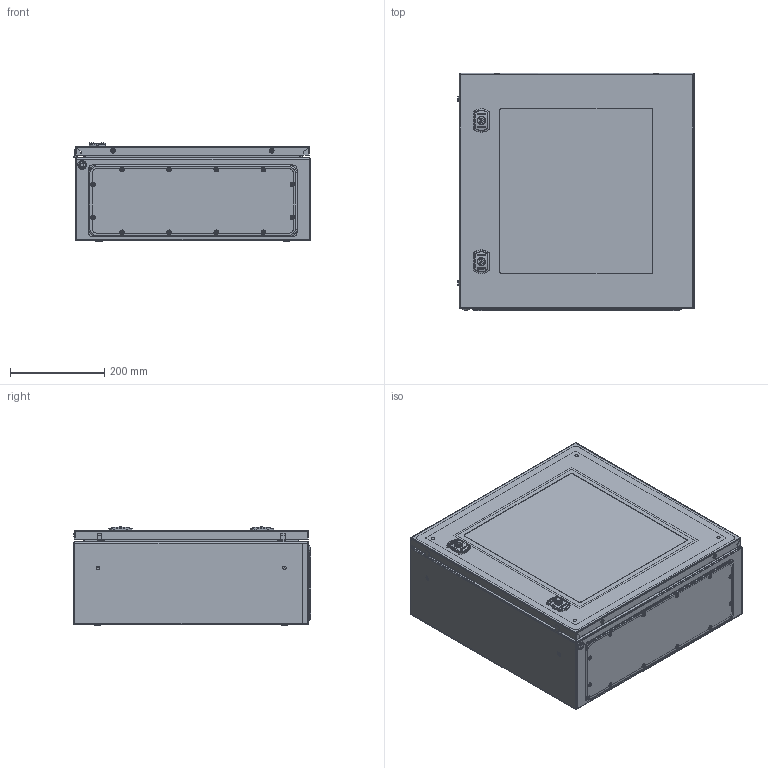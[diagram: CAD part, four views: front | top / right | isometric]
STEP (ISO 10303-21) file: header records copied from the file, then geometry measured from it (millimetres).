
FILE_DESCRIPTION (( 'STEP AP203' ), '1' );
FILE_NAME ('R5STX0552.STEP', '2022-04-28T09:07:55', ( '' ), ( '' ), 'SwSTEP 2.0', 'SolidWorks 2020', '' );
FILE_SCHEMA (( 'CONFIG_CONTROL_DESIGN' ));
Length unit declared in the file: millimetre
Products named in the file (41): TPA.08.0003.00.00.0; AC00C380-R; RB.0048.11.01.0_-03; Pin 1.2x12 GOST 3128-70; RB.0048.05.00.0 捘_-04; AC00C348-R; M8 DIN 6923 cl.8,0 Zinc_straight; M4x6 DIN 7985 PH cl.4,8 Zinc_straight; M6x16 DIN 7985 PZ cl.4,8 Zinc_straight; RB.2237.00.00.0; M4x10 DIN 7500 M PZ cl.4,8 Zinc_straight; PF 7,5x15 door ST_0500x0500; A7100032-R; RB.0048.05.01.0_-04; RB.2238.00.00.0; Glue ST_0500x0500; Ì6õ12 A5100231_straight; RB.2171.00.01.0; RB.2171.00.00.0 捘; RB.2070.00.00.0; RB.0048.02.00.1 C縫-14; TPA.08.0002.00.00.0; 娗p ST; Glass ST_0500x0500; RB.0048.06.00.0 捘_-04; PF 4x8 flange ST_03; AC00C316-R; PT Ì6õ16 Cu ISO13918_straight; RB.0048.01.01.1_-14; AC00C112-R; AC00C343-R; RB.0048.01.00.1 C縫-14; AC00C356-R_AC00c356(A7100031); RB.0048.11.00.0 C縫-03; R5STX0552; PT Ì8õ25 cl.4.8 Cu ISO13918_straight; RB.0048.00.02.1_-02; TPA.08.0001.00.00.0; RB.0048.01.02.0_-08; TPA.08.0060.00.00.0 捘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
Assembly tree (71 placements, depth 4):
  R5STX0552
    RB.0048.02.00.1 C縫-14
      RB.0048.01.00.1 C縫-14
        RB.0048.01.01.1_-14
        RB.0048.01.02.0_-08
        PT Ì8õ25 cl.4.8 Cu ISO13918_straight  x4
        PT Ì6õ16 Cu ISO13918_straight  x4
      AC00C317-R  x4
      AC00C316-R
      RB.2171.00.00.0 捘  x2
        RB.2171.00.01.0
        Pin 1.2x12 GOST 3128-70
      娗p ST  x2
      M4x6 DIN 7985 PH cl.4,8 Zinc_straight  x2
    RB.0048.11.00.0 C縫-03
      RB.0048.11.01.0_-03
      PF 4x8 flange ST_03
    RB.2238.00.00.0  x2
    M8 DIN 6923 cl.8,0 Zinc_straight  x4
    RB.0048.06.00.0 捘_-04
      RB.0048.05.00.0 捘_-04
        RB.0048.05.01.0_-04
        RB.2237.00.00.0  x2
        Ì6õ12 A5100231_straight  x4
      TPA.08.0060.00.00.0 捘  x2
        A7100032-R
        AC00C343-R
        AC00C348-R
        TPA.08.0001.00.00.0
        TPA.08.0002.00.00.0
        TPA.08.0003.00.00.0
        M6x16 DIN 7985 PZ cl.4,8 Zinc_straight
      AC00C112-R  x4
      PF 7,5x15 door ST_0500x0500
      Glass ST_0500x0500
      Glue ST_0500x0500
      AC00C356-R_AC00c356(A7100031)  x2
    AC00C380-R  x2
    RB.0048.00.02.1_-02
    RB.2070.00.00.0  x4
    M4x10 DIN 7500 M PZ cl.4,8 Zinc_straight  x2
Bounding box: 503.1 x 503.5 x 208.18 mm (x, y, z)
Volume: 2433271 mm3; surface area: 2667407.4 mm2
Topology: 72 solids, 72 shells, 4598 faces, 11389 edges, 7095 vertices
Faces by surface type: plane 2009, cylinder 1371, bspline 464, torus 408, cone 268, sphere 78
Entity records: 107597 total; most frequent: CARTESIAN_POINT 32382, ORIENTED_EDGE 14716, DIRECTION 14253, EDGE_CURVE 7358, AXIS2_PLACEMENT_3D 4931, VERTEX_POINT 4630, VECTOR 4391, LINE 4391
